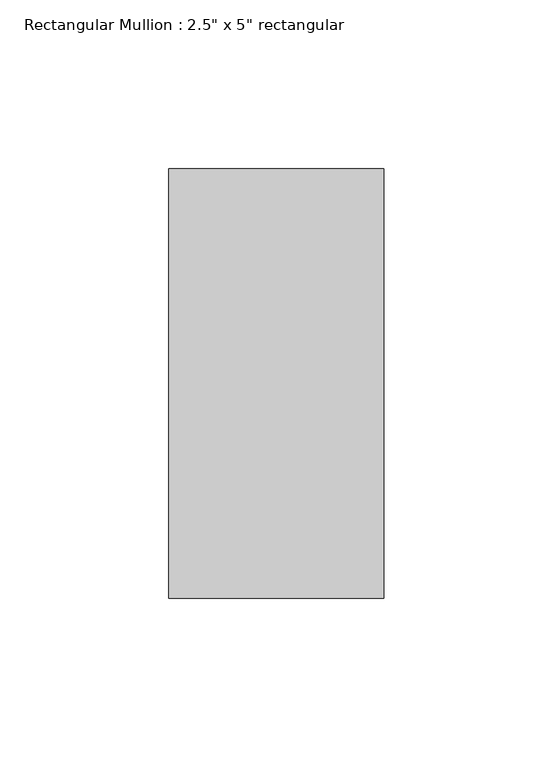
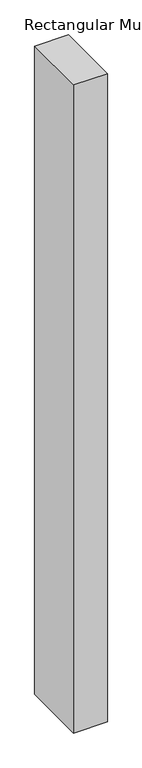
"""IFC4 building model written with IfcOpenShell, lengths in millimetres: member geometry."""

from ifc_helpers import new_model, si_unit, frame, origin, place, context, project, spatial, polyline, outline, extrude, source, transform, mapped, element, save


def member_c8e754a7(model_context):
    return source(origin(), model_context, "Body", "SweptSolid", [
        extrude(outline(polyline([(0.0, 63.5), (0.0, -63.5), (-63.5, -63.5), (-63.5, 63.5), (0.0, 63.5)])), frame((0.0, 0.0, -1291.1666665), z_axis=(0.0, 0.0, 1.0), x_axis=(1.0, 0.0, 0.0)), (0.0, 0.0, 1.0), 1291.1666665),
    ])


if __name__ == "__main__":
    model = new_model("IFC4")
    model_context = context("Model", 3, world=origin())
    ifc_project = project(units=[si_unit("LENGTHUNIT", "METRE", prefix="MILLI")], contexts=[model_context])
    site = spatial("IfcSite", under=ifc_project)
    building = spatial("IfcBuilding", under=site)
    placement = place(None, origin())
    member_shape = member_c8e754a7(model_context)
    element("IfcMember", 1, ObjectType="Rectangular Mullion : 2.5\" x 5\" rectangular", at=placement, inside=building, context=model_context, shape_type="MappedRepresentation", body=[
        mapped(member_shape, transform((0.0, 0.0, 0.0), x_axis=(1.0, 0.0, 0.0), y_axis=(0.0, 1.0, 0.0), z_axis=(0.0, 0.0, 1.0))),
    ])
    save(model, "model.ifc")
